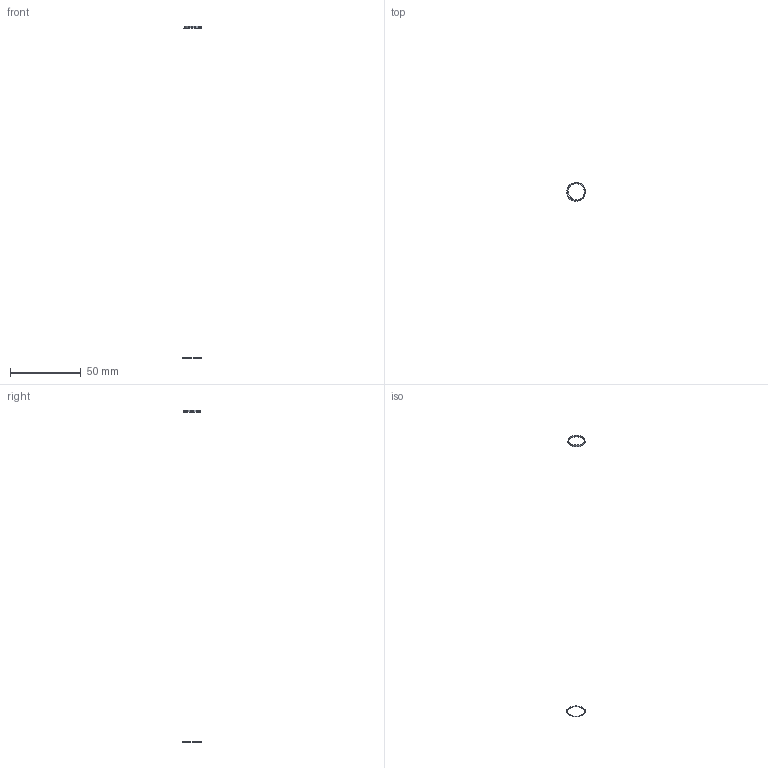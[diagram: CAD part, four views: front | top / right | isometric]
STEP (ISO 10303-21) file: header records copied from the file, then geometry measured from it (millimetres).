
FILE_DESCRIPTION(('Creo Elements/Direct Modeling STEP Export'),'2;1');
FILE_NAME('HLG-480-BTYPE.stp','2017-07-24T10:13:33',(''),(''),'PTC Creo Elements/Direct Modeling STEP processor for AP214 (Solid Model)','PTC Creo Elements/Direct Modeling 19.0 09-May-2014 (C) Parametric Technology GmbH','');
FILE_SCHEMA(('AUTOMOTIVE_DESIGN { 1 0 10303 214 1 1 1 1 }'));
Length unit declared in the file: millimetre
Products named in the file (3): ddd; 下蓋.1; HLG-480
Assembly tree (2 placements, depth 2):
  HLG-480
    下蓋.1
    ddd
Bounding box: 13.35 x 13.3 x 235.3 mm (x, y, z)
Volume: 4.4 mm3; surface area: 184 mm2
Topology: 2 solids, 2 shells, 14 faces, 28 edges, 18 vertices
Faces by surface type: cylinder 6, cone 4, plane 4
Entity records: 17262 total; most frequent: ORIENTED_EDGE 3148, DIRECTION 2927, CARTESIAN_POINT 2897, EDGE_CURVE 1574, AXIS2_PLACEMENT_3D 1050, VERTEX_POINT 1020, VECTOR 827, LINE 827
